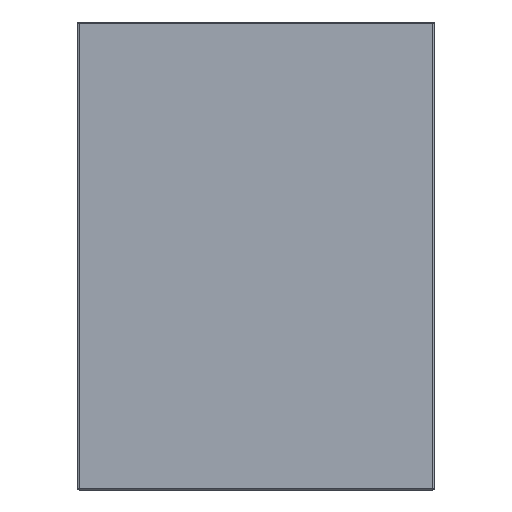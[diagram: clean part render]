
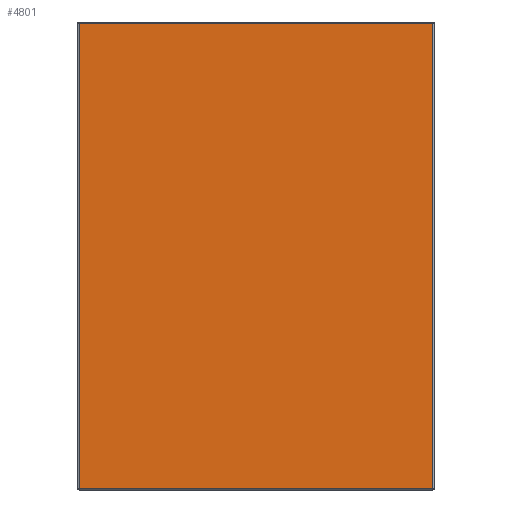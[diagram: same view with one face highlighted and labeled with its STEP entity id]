
A CAD part, left-side view. The second image highlights one B-rep face of the part: STEP entity #4801.
In plain terms, the highlighted planar face has unit normal (-1, 0, 0).
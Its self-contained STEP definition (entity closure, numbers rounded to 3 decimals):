
#191 = LINE ( 'NONE', #4752, #3441 ) ;
#250 = AXIS2_PLACEMENT_3D ( 'NONE', #596, #4625, #4252 ) ;
#475 = EDGE_CURVE ( 'NONE', #1313, #1052, #540, .T. ) ;
#540 = LINE ( 'NONE', #1820, #1617 ) ;
#567 = CARTESIAN_POINT ( 'NONE',  ( -850., -3., -357. ) ) ;
#596 = CARTESIAN_POINT ( 'NONE',  ( -850., 0., -360. ) ) ;
#744 = DIRECTION ( 'NONE',  ( 0., 1., 0. ) ) ;
#766 = ORIENTED_EDGE ( 'NONE', *, *, #3898, .T. ) ;
#809 = VERTEX_POINT ( 'NONE', #4951 ) ;
#839 = VECTOR ( 'NONE', #744, 1000. ) ;
#1052 = VERTEX_POINT ( 'NONE', #567 ) ;
#1182 = ORIENTED_EDGE ( 'NONE', *, *, #5113, .T. ) ;
#1202 = EDGE_CURVE ( 'NONE', #4402, #809, #1499, .T. ) ;
#1313 = VERTEX_POINT ( 'NONE', #1856 ) ;
#1499 = LINE ( 'NONE', #4745, #2357 ) ;
#1547 = CARTESIAN_POINT ( 'NONE',  ( -850., 0., 357. ) ) ;
#1617 = VECTOR ( 'NONE', #3026, 1000. ) ;
#1820 = CARTESIAN_POINT ( 'NONE',  ( -850., -3., -360. ) ) ;
#1855 = DIRECTION ( 'NONE',  ( 0., 0., 1. ) ) ;
#1856 = CARTESIAN_POINT ( 'NONE',  ( -850., -3., 357. ) ) ;
#1912 = ORIENTED_EDGE ( 'NONE', *, *, #1202, .T. ) ;
#2357 = VECTOR ( 'NONE', #1855, 1000. ) ;
#3026 = DIRECTION ( 'NONE',  ( 0., 0., -1. ) ) ;
#3108 = EDGE_LOOP ( 'NONE', ( #1182, #1912, #766, #3760 ) ) ;
#3441 = VECTOR ( 'NONE', #5157, 1000. ) ;
#3760 = ORIENTED_EDGE ( 'NONE', *, *, #475, .T. ) ;
#3835 = PLANE ( 'NONE',  #250 ) ;
#3898 = EDGE_CURVE ( 'NONE', #809, #1313, #4005, .T. ) ;
#4005 = LINE ( 'NONE', #1547, #839 ) ;
#4252 = DIRECTION ( 'NONE',  ( 0., -1., 0. ) ) ;
#4402 = VERTEX_POINT ( 'NONE', #4685 ) ;
#4625 = DIRECTION ( 'NONE',  ( -1., 0., 0. ) ) ;
#4685 = CARTESIAN_POINT ( 'NONE',  ( -850., -547., -357. ) ) ;
#4745 = CARTESIAN_POINT ( 'NONE',  ( -850., -547., -360. ) ) ;
#4752 = CARTESIAN_POINT ( 'NONE',  ( -850., -550., -357. ) ) ;
#4801 = ADVANCED_FACE ( 'NONE', ( #4819 ), #3835, .T. ) ;
#4819 = FACE_OUTER_BOUND ( 'NONE', #3108, .T. ) ;
#4951 = CARTESIAN_POINT ( 'NONE',  ( -850., -547., 357. ) ) ;
#5113 = EDGE_CURVE ( 'NONE', #1052, #4402, #191, .T. ) ;
#5157 = DIRECTION ( 'NONE',  ( 0., -1., 0. ) ) ;
